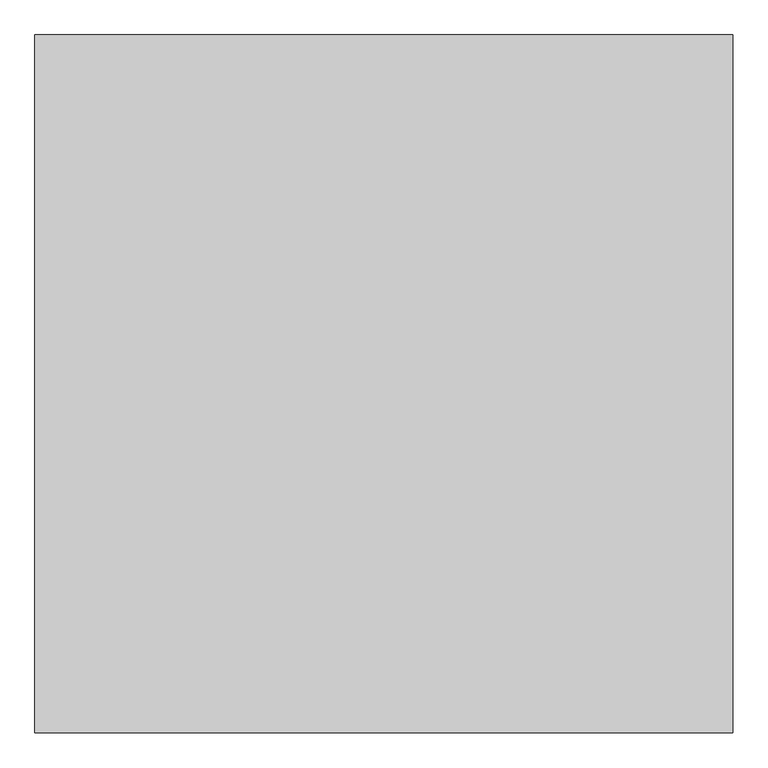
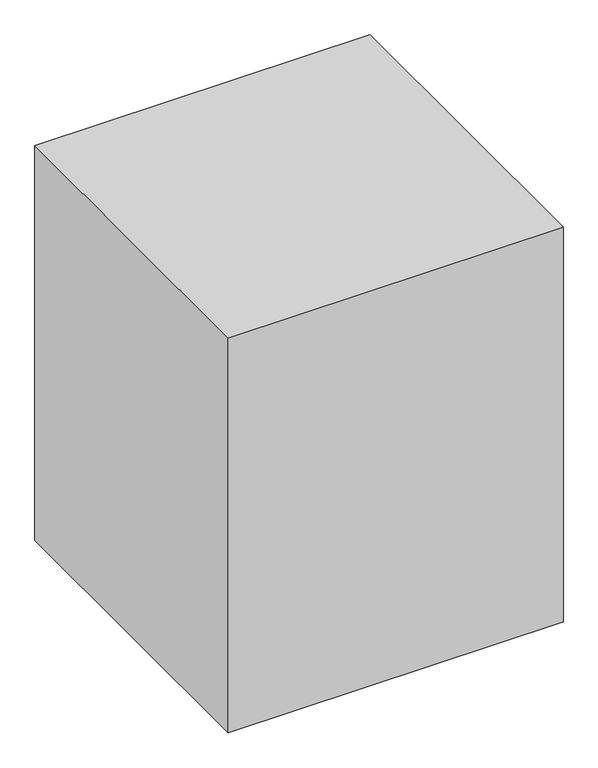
"""IFC4 building model written with IfcOpenShell, lengths in millimetres: proxy geometry, サービススペース : サービススペース."""

from ifc_helpers import new_model, si_unit, frame, origin, place, context, project, spatial, polyline, outline, extrude, source, transform, mapped, element, save


def specialty_equipment_a7fb6e89(model_context):
    return source(origin(), model_context, "Body", "SweptSolid", [
        extrude(outline(polyline([(1525.0, 1525.0), (1525.0, -1525.0), (-1525.0, -1525.0), (-1525.0, 1525.0), (1525.0, 1525.0)])), frame((0.0, 0.0, -1900.0), z_axis=(0.0, 0.0, 1.0), x_axis=(1.0, 0.0, 0.0)), (0.0, 0.0, 1.0), 3800.0),
    ])


if __name__ == "__main__":
    model = new_model("IFC4")
    model_context = context("Model", 3, world=origin())
    ifc_project = project(units=[si_unit("LENGTHUNIT", "METRE", prefix="MILLI")], contexts=[model_context])
    site = spatial("IfcSite", under=ifc_project)
    building = spatial("IfcBuilding", under=site)
    placement = place(None, origin())
    specialty_equipment_shape = specialty_equipment_a7fb6e89(model_context)
    element("IfcBuildingElementProxy", 1, Name="サービススペース : サービススペース", ObjectType="サービススペース : サービススペース", at=placement, inside=building, context=model_context, shape_type="MappedRepresentation", body=[
        mapped(specialty_equipment_shape, transform((0.0, 0.0, 0.0), x_axis=(1.0, 0.0, 0.0), y_axis=(0.0, 1.0, 0.0), z_axis=(0.0, 0.0, 1.0))),
    ])
    save(model, "model.ifc")
